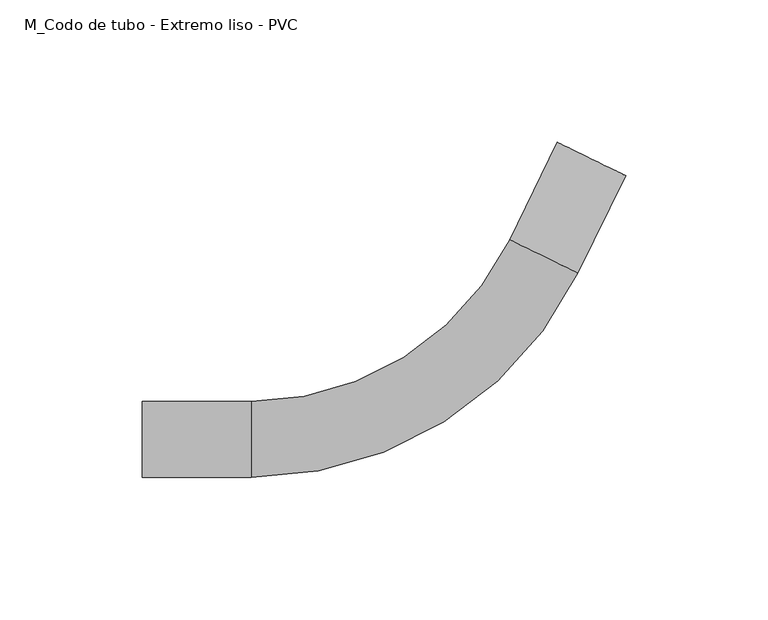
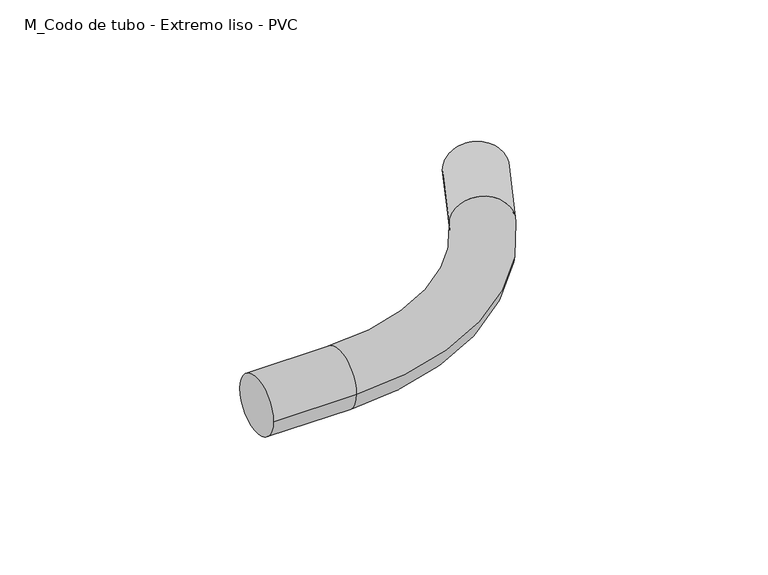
"""IFC4 building model written with IfcOpenShell, lengths in millimetres: cable carrier fitting geometry, M_Codo de tubo - Extremo liso - PVC : CODO ILUMINACION."""

import ifcopenshell
import ifcopenshell.guid

model = None  # the IFC model being written
_history = None  # IfcOwnerHistory: only IFC2X3 demands one
_inside = {}  # id of a spatial element -> (the spatial element, [elements in it])
_under = {}  # id of a project, library or spatial element -> (it, [spatial elements below it])
_declared = {}  # id of a project -> (the project, [libraries it declares])
_typed = {}  # id of a type object -> (the type object, [elements of that type])
_made_of = {}  # id of a material, layer set ... -> (it, [elements and type objects made of it])


def new_model(schema):
    """Start an empty IFC model of exactly this schema.

    Asked for "IFC4X3", IfcOpenShell would pick the latest addendum, in which some entities
    have other attributes; the version numbers below select the first issue.
    IFC2X3 requires an IfcOwnerHistory on every rooted entity: one is made here for all.
    """
    global model, _history
    if schema == "IFC4X3":
        model = ifcopenshell.file(schema_version=(4, 3, 0, 0))
    else:
        model = ifcopenshell.file(schema=schema)
    _inside.clear()
    _under.clear()
    _declared.clear()
    _typed.clear()
    _made_of.clear()
    _history = None
    if model.schema == "IFC2X3":
        org = make("IfcOrganization", Name="unknown")
        user = make(
            "IfcPersonAndOrganization",
            ThePerson=make("IfcPerson", FamilyName="unknown"),
            TheOrganization=org,
        )
        app = make(
            "IfcApplication",
            ApplicationDeveloper=org,
            Version="unknown",
            ApplicationFullName="unknown",
            ApplicationIdentifier="unknown",
        )
        _history = make(
            "IfcOwnerHistory",
            OwningUser=user,
            OwningApplication=app,
            ChangeAction="ADDED",
            CreationDate=0,
        )
    return model


def make(cls, **values):
    """One entity of the class cls with the attributes given. An attribute that is None is left unset."""
    return model.create_entity(
        cls, **{name: value for name, value in values.items() if value is not None}
    )


def rooted(cls, **values):
    """An entity with a GlobalId (a new one), such as an element, a storey or a relation."""
    return make(cls, GlobalId=ifcopenshell.guid.new(), OwnerHistory=_history, **values)


def si_unit(unit_type, name, prefix=None):
    """IfcSIUnit, for example si_unit("LENGTHUNIT", "METRE", prefix="MILLI")."""
    return make("IfcSIUnit", UnitType=unit_type, Prefix=prefix, Name=name)


def assignment(units):
    """IfcUnitAssignment: the units of a project."""
    return None if units is None else make("IfcUnitAssignment", Units=units)


def point(xyz):
    """IfcCartesianPoint."""
    return None if xyz is None else make("IfcCartesianPoint", Coordinates=xyz)


def direction(xyz):
    """IfcDirection."""
    return None if xyz is None else make("IfcDirection", DirectionRatios=xyz)


def frame(location, z_axis=None, x_axis=None):
    """IfcAxis2Placement3D, a coordinate frame: its origin and axes. An axis left out is left unset."""
    return make(
        "IfcAxis2Placement3D",
        Location=point(location),
        Axis=direction(z_axis),
        RefDirection=direction(x_axis),
    )


def origin():
    """The frame at (0, 0, 0) with its axes left unset."""
    return frame((0.0, 0.0, 0.0))


def place(relative_to, where):
    """IfcLocalPlacement: puts the frame where relative to a parent placement (None: the world)."""
    return make(
        "IfcLocalPlacement", PlacementRelTo=relative_to, RelativePlacement=where
    )


def context(
    kind, dimensions, precision=None, world=None, true_north=None, identifier=None
):
    """IfcGeometricRepresentationContext, for example the 3D "Model" context."""
    return make(
        "IfcGeometricRepresentationContext",
        ContextIdentifier=identifier,
        ContextType=kind,
        CoordinateSpaceDimension=dimensions,
        Precision=precision,
        WorldCoordinateSystem=world,
        TrueNorth=true_north,
    )


def project(units=None, contexts=None):
    """IfcProject with its units and contexts."""
    return rooted(
        "IfcProject",
        Name="project",
        RepresentationContexts=contexts,
        UnitsInContext=assignment(units),
    )


def spatial(cls, under=None, at=None, **own):
    """A site, building, storey or space (cls), placed at a placement, below another one or the project."""
    s = rooted(cls, ObjectPlacement=at, **own)
    if under is not None:
        _under.setdefault(under.id(), (under, []))[1].append(s)
    return s


def circle_curve(where, radius):
    """IfcCircle in the frame where."""
    return make("IfcCircle", Position=where, Radius=radius)


def ellipse_curve(where, semi_axis1, semi_axis2):
    """IfcEllipse in the frame where."""
    return make(
        "IfcEllipse", Position=where, SemiAxis1=semi_axis1, SemiAxis2=semi_axis2
    )


def trimmed(basis, trim1, trim2, sense, master):
    """IfcTrimmedCurve: the piece of a basis curve between two trims."""
    return make(
        "IfcTrimmedCurve",
        BasisCurve=basis,
        Trim1=trim1,
        Trim2=trim2,
        SenseAgreement=sense,
        MasterRepresentation=master,
    )


def shape(context_of_items, identifier, shape_type, items):
    """IfcShapeRepresentation: the items that make up one representation, for example the "Body"."""
    return make(
        "IfcShapeRepresentation",
        ContextOfItems=context_of_items,
        RepresentationIdentifier=identifier,
        RepresentationType=shape_type,
        Items=items,
    )


def source(mapping_origin, context_of_items, identifier, shape_type, items):
    """IfcRepresentationMap: a shape defined once, which mapped items show again and again."""
    return make(
        "IfcRepresentationMap",
        MappingOrigin=mapping_origin,
        MappedRepresentation=shape(context_of_items, identifier, shape_type, items),
    )


def transform(
    local_origin,
    x_axis=None,
    y_axis=None,
    z_axis=None,
    scale=None,
    scale2=None,
    scale3=None,
    uniform=True,
):
    """IfcCartesianTransformationOperator3D, or its non-uniform kind. x_axis, y_axis, z_axis: its Axis1, 2, 3."""
    if uniform:
        return make(
            "IfcCartesianTransformationOperator3D",
            Axis1=direction(x_axis),
            Axis2=direction(y_axis),
            LocalOrigin=point(local_origin),
            Scale=scale,
            Axis3=direction(z_axis),
        )
    return make(
        "IfcCartesianTransformationOperator3DnonUniform",
        Axis1=direction(x_axis),
        Axis2=direction(y_axis),
        LocalOrigin=point(local_origin),
        Scale=scale,
        Axis3=direction(z_axis),
        Scale2=scale2,
        Scale3=scale3,
    )


def mapped(mapping_source, mapping_target):
    """IfcMappedItem: shows the shape of a source again, moved by a transform."""
    return make(
        "IfcMappedItem", MappingSource=mapping_source, MappingTarget=mapping_target
    )


def made_of(thing, what):
    """Note that an element or type object is made of a material, layer set ...; save() writes the relation."""
    if what is not None:
        _made_of.setdefault(what.id(), (what, []))[1].append(thing)
    return thing


def element(
    cls,
    number,
    at=None,
    inside=None,
    cuts=None,
    type_object=None,
    material=None,
    context=None,
    identifier="Body",
    shape_type=None,
    held_by="IfcProductDefinitionShape",
    body=None,
    shapes=None,
    **own,
):
    """One element of the class cls, such as IfcWall. Its Tag is "e" and its number.

    at: its placement. inside: the storey or other place that contains it. cuts: it is an
    opening in that element (IfcRelVoidsElement). A single representation is given by context,
    identifier, shape_type and body (its items); several are given by shapes. held_by: the class
    of the entity that holds the representations. save() writes the other relations.
    """
    e = rooted(cls, Tag="e%d" % number, ObjectPlacement=at, **own)
    if body is not None:
        shapes = [shape(context, identifier, shape_type, body)]
    if shapes is not None:
        e.Representation = make(held_by, Representations=shapes)
    if inside is not None:
        _inside.setdefault(inside.id(), (inside, []))[1].append(e)
    if cuts is not None:
        rooted(
            "IfcRelVoidsElement", RelatingBuildingElement=cuts, RelatedOpeningElement=e
        )
    if type_object is not None:
        _typed.setdefault(type_object.id(), (type_object, []))[1].append(e)
    return made_of(e, material)


def aggregate(whole, parts):
    """IfcRelAggregates: a whole, such as a stair, and the parts it consists of."""
    return rooted("IfcRelAggregates", RelatingObject=whole, RelatedObjects=parts)


def save(model, path):
    """Write the relations noted so far, then the file.

    IfcRelAggregates (storeys below a building ...), IfcRelContainedInSpatialStructure (elements
    in a storey), IfcRelDefinesByType, IfcRelAssociatesMaterial and IfcRelDeclares: one each for
    every whole, place, type object, material and project.
    """
    for whole, parts in _under.values():
        aggregate(whole, parts)
    for where, things in _inside.values():
        rooted(
            "IfcRelContainedInSpatialStructure",
            RelatedElements=things,
            RelatingStructure=where,
        )
    for kind, things in _typed.values():
        rooted("IfcRelDefinesByType", RelatedObjects=things, RelatingType=kind)
    for what, things in _made_of.values():
        rooted("IfcRelAssociatesMaterial", RelatedObjects=things, RelatingMaterial=what)
    for by, libraries in _declared.values():
        rooted("IfcRelDeclares", RelatingContext=by, RelatedDefinitions=libraries)
    model.write(path)


def plane_surface(at):
    """IfcPlane: the flat surface through the origin of the frame at, square to its z axis."""
    return make("IfcPlane", Position=at)


def cylinder_surface(at, radius):
    """IfcCylindricalSurface: all points at the distance radius from the z axis of the frame at."""
    return make("IfcCylindricalSurface", Position=at, Radius=radius)


def revolved_surface(curve, axis_point, axis_direction):
    """IfcSurfaceOfRevolution: the curve turned about the line through axis_point along axis_direction."""
    return make(
        "IfcSurfaceOfRevolution",
        SweptCurve=make("IfcArbitraryOpenProfileDef", ProfileType="CURVE", Curve=curve),
        AxisPosition=make("IfcAxis1Placement", Location=point(axis_point), Axis=direction(axis_direction)),
    )


def advanced_brep(points, edges, surfaces, faces):
    """IfcAdvancedBrep: a solid bounded by faces that lie on surfaces and meet in shared edges.

    An edge is (start, end): straight between two places in points (the first is 0);
    or (start, end, curve); or (start, end, curve, False) where it runs against its curve.
    A face is (place in surfaces, loops), or (place, loops, False) where it looks against
    its surface's normal. A loop lists edges by number (the first is 1), with a minus sign
    where the edge is run from its end to its start. The first loop is the outer one.
    """
    corners = [point(p) for p in points]
    vertices = [make("IfcVertexPoint", VertexGeometry=c) for c in corners]
    made = []
    for start, end, *more in edges:
        made.append(
            make(
                "IfcEdgeCurve",
                EdgeStart=vertices[start],
                EdgeEnd=vertices[end],
                EdgeGeometry=more[0] if more else make("IfcPolyline", Points=[corners[start], corners[end]]),
                SameSense=more[1] if len(more) > 1 else True,
            )
        )
    hull = []
    for where, loops, *sense in faces:
        bounds = []
        for j, loop in enumerate(loops):
            ring = [make("IfcOrientedEdge", EdgeElement=made[abs(k) - 1], Orientation=k > 0) for k in loop]
            bounds.append(
                make(
                    "IfcFaceOuterBound" if j == 0 else "IfcFaceBound",
                    Bound=make("IfcEdgeLoop", EdgeList=ring),
                    Orientation=True,
                )
            )
        hull.append(make("IfcAdvancedFace", Bounds=bounds, FaceSurface=surfaces[where], SameSense=sense[0] if sense else True))
    return make("IfcAdvancedBrep", Outer=make("IfcClosedShell", CfsFaces=hull))


def m_codo_de_tubo_extremo_liso_pvc_f58f4af8(model_context):
    return source(origin(), model_context, "Body", "AdvancedBrep", [
        advanced_brep(
        [(-109.5225669, -13.335, 0.0), (-109.5225669, 13.335, 0.0), (-71.4225669, -13.335, 0.0), (-71.4225669, 13.335, 0.0), (19.324174, 70.0398572, 0.0), (43.2950112, 58.3484987, 0.0), (59.9969519, 92.5925518, 0.0), (36.0261147, 104.2839103, 0.0)],
        [
            (0, 1, circle_curve(frame((-109.5225669, 0.0, 0.0), z_axis=(-1.0, 0.0, 0.0), x_axis=(0.0, 1.0, 0.0)), 13.335)),
            (1, 0, circle_curve(frame((-109.5225669, 0.0, 0.0), z_axis=(-1.0, 0.0, 0.0), x_axis=(0.0, 1.0, 0.0)), 13.335)),
            (0, 2),
            (2, 3, circle_curve(frame((-71.4225669, 0.0, 0.0), z_axis=(-1.0, 0.0, 0.0), x_axis=(0.0, 1.0, 0.0)), 13.335)),
            (3, 1),
            (3, 2, circle_curve(frame((-71.4225669, 0.0, 0.0), z_axis=(-1.0, 0.0, 0.0), x_axis=(0.0, 1.0, 0.0)), 13.335)),
            (4, 3, circle_curve(frame((-71.4225669, 114.3, 0.0), z_axis=(0.0, 0.0, -1.0), x_axis=(0.0, -1.0, 0.0)), 100.965)),
            (2, 5, circle_curve(frame((-71.4225669, 114.3, 0.0), z_axis=(0.0, 0.0, 1.0), x_axis=(0.0, -1.0, 0.0)), 127.635)),
            (5, 4, circle_curve(frame((31.3095926, 64.1941779, 0.0), z_axis=(-0.4383711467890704, -0.8987940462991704, 0.0), x_axis=(-0.8987940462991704, 0.4383711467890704, 0.0)), 13.335)),
            (4, 5, circle_curve(frame((31.3095926, 64.1941779, 0.0), z_axis=(-0.4383711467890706, -0.8987940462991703, 0.0), x_axis=(-0.8987940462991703, 0.4383711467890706, 0.0)), 13.335)),
            (6, 7, circle_curve(frame((48.0115333, 98.4382311, 0.0), z_axis=(0.43837114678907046, 0.8987940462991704, 0.0), x_axis=(-0.8987940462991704, 0.43837114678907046, 0.0)), 13.335)),
            (7, 6, circle_curve(frame((48.0115333, 98.4382311, 0.0), z_axis=(0.43837114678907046, 0.8987940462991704, 0.0), x_axis=(-0.8987940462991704, 0.43837114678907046, 0.0)), 13.335)),
            (5, 6),
            (7, 4),
        ],
        [
            plane_surface(frame((-109.5225669, 0.0, 0.0), z_axis=(-1.0, 0.0, 0.0), x_axis=(0.0, 0.0, 1.0))),
            cylinder_surface(frame((-109.5225669, 0.0, 0.0), z_axis=(-1.0, 0.0, 0.0), x_axis=(0.0, 1.0, 0.0)), 13.335),
            revolved_surface(trimmed(ellipse_curve(frame((-71.4225669, 0.0, 0.0), z_axis=(-1.0, 0.0, 0.0), x_axis=(0.0, 1.0, 0.0)), 13.335, 13.335), [point((-71.4225669, -13.335, 0.0))], [point((-71.4225669, 13.335, 0.0))], True, "CARTESIAN"), (-71.4225669, 114.3, 0.0), (0.0, 0.0, 1.0)),
            revolved_surface(trimmed(ellipse_curve(frame((-71.4225669, 0.0, 0.0), z_axis=(-1.0, 0.0, 0.0), x_axis=(0.0, 1.0, 0.0)), 13.335, 13.335), [point((-71.4225669, 13.335, 0.0))], [point((-71.4225669, -13.335, 0.0))], True, "CARTESIAN"), (-71.4225669, 114.3, 0.0), (0.0, 0.0, 1.0)),
            plane_surface(frame((48.0115333, 98.4382311, 0.0), z_axis=(0.4383711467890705, 0.8987940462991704, 0.0), x_axis=(0.0, 0.0, 1.0))),
            cylinder_surface(frame((31.3095926, 64.1941779, 0.0), z_axis=(-0.43837114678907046, -0.8987940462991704, 0.0), x_axis=(-0.8987940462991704, 0.43837114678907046, 0.0)), 13.335),
        ],
        [
            (0, [[1, 2]]),
            (1, [[-1, 3, 4, 5]]),
            (1, [[-2, -5, 6, -3]]),
            (2, [[7, -4, 8, 9]]),
            (3, [[-8, -6, -7, 10]]),
            (4, [[11, 12]]),
            (5, [[-9, 13, -12, 14]]),
            (5, [[-10, -14, -11, -13]]),
        ],
    ),
    ])


if __name__ == "__main__":
    model = new_model("IFC4")
    model_context = context("Model", 3, world=origin())
    ifc_project = project(units=[si_unit("LENGTHUNIT", "METRE", prefix="MILLI")], contexts=[model_context])
    site = spatial("IfcSite", under=ifc_project)
    building = spatial("IfcBuilding", under=site)
    placement = place(None, origin())
    m_codo_de_tubo_extremo_liso_pvc_shape = m_codo_de_tubo_extremo_liso_pvc_f58f4af8(model_context)
    element("IfcCableCarrierFitting", 1, ObjectType="M_Codo de tubo - Extremo liso - PVC : CODO ILUMINACION", at=placement, inside=building, context=model_context, shape_type="MappedRepresentation", body=[
        mapped(m_codo_de_tubo_extremo_liso_pvc_shape, transform((0.0, 0.0, 0.0), x_axis=(1.0, 0.0, 0.0), y_axis=(0.0, 1.0, 0.0), z_axis=(0.0, 0.0, 1.0))),
    ])
    save(model, "model.ifc")
